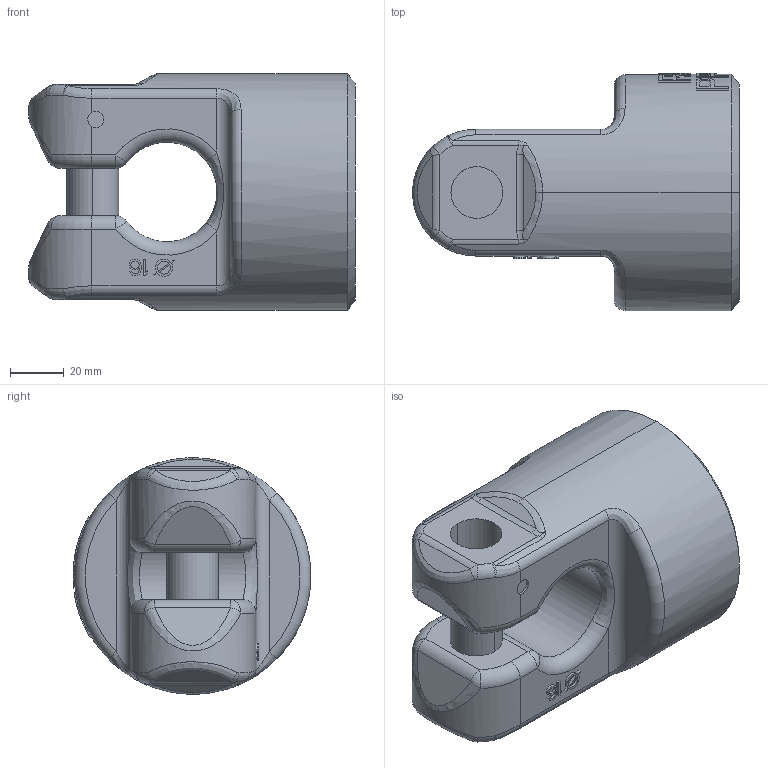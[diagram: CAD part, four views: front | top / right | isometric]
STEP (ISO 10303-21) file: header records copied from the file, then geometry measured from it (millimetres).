
FILE_DESCRIPTION((''),'2;1');
FILE_NAME('001-M31342-P-50_ASM','2018-04-26T',('Anja.Joas'),(''),'PRO/ENGINEER BY PARAMETRIC TECHNOLOGY CORPORATION, 2011490','PRO/ENGINEER BY PARAMETRIC TECHNOLOGY CORPORATION, 2011490','');
FILE_SCHEMA(('CONFIG_CONTROL_DESIGN'));
Length unit declared in the file: millimetre
Products named in the file (2): 001-M31342-P-20_AF0; 001-M31342-P-50_ASM
Assembly tree (1 placements, depth 2):
  001-M31342-P-50_ASM
    001-M31342-P-20_AF0
Bounding box: 121.49 x 88.5 x 88 mm (x, y, z)
Volume: 464696.8 mm3; surface area: 45135.5 mm2
Topology: 1 solids, 1 shells, 430 faces, 1144 edges, 736 vertices
Faces by surface type: plane 317, cylinder 55, bspline 30, torus 14, sphere 12, cone 2
Entity records: 15919 total; most frequent: CARTESIAN_POINT 5781, ORIENTED_EDGE 2288, DIRECTION 1822, EDGE_CURVE 1144, VERTEX_POINT 736, AXIS2_PLACEMENT_3D 615, VECTOR 592, LINE 592
